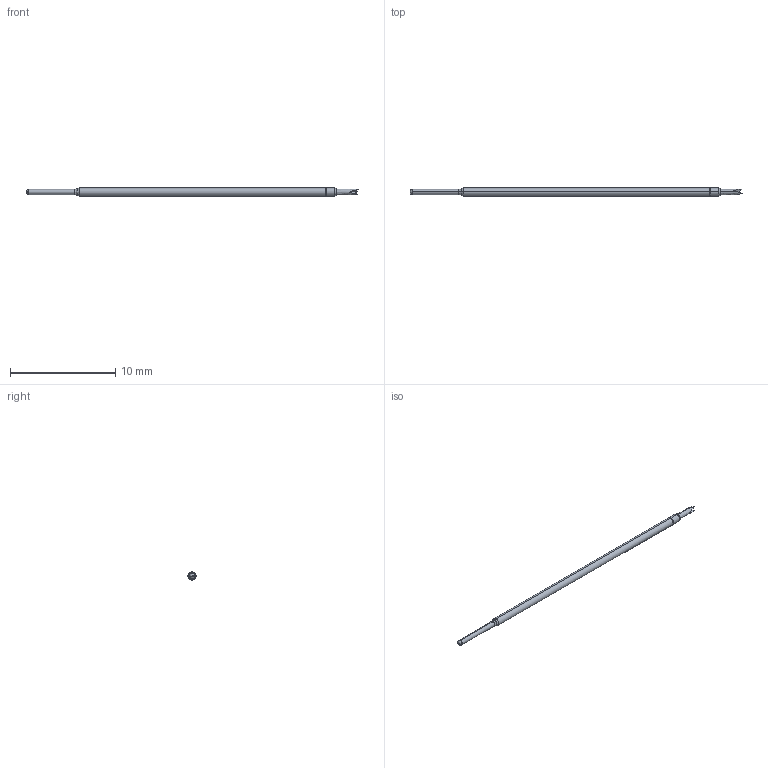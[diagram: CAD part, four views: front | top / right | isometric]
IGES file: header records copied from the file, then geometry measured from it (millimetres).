
Start section: SolidWorks IGES file using analytic representation for surfaces
Global section: file name: C:\Documents and Settings\mrumschlag\Desktop\changes\new\test\U FULL.IGS; native system: SolidWorks 2011; preprocessor: SolidWorks 2011; author: mrumschlag; date: 110630.142728; units: inch
Bounding box: 31.58 x 0.76 x 0.76 mm (x, y, z)
Surface area: 70.5 mm2 (no closed solid volume)
Topology: 0 solids, 0 shells, 29 faces, 182 edges, 180 vertices
Faces by surface type: bspline 15, revolution 14
